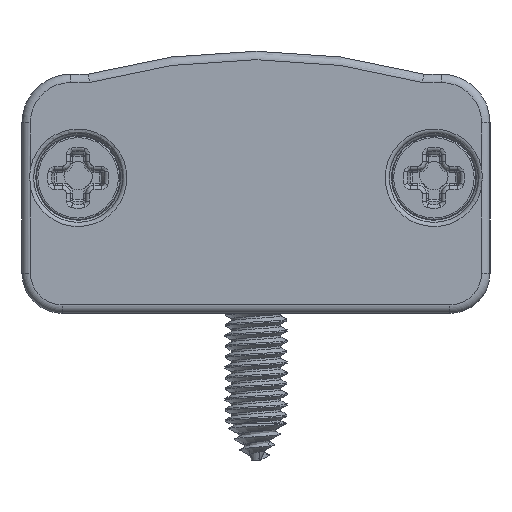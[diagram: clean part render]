
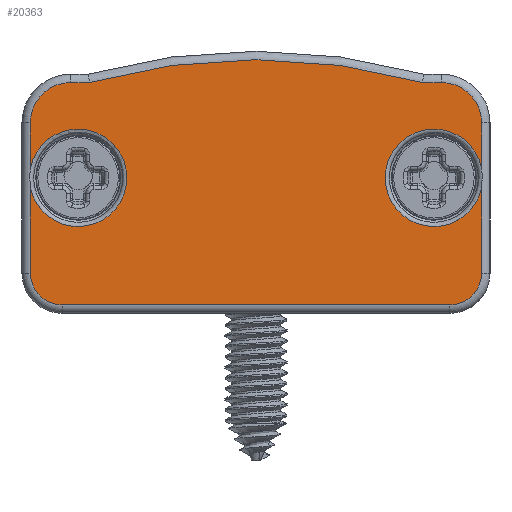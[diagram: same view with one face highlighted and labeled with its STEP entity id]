
A CAD part, front view. The second image highlights one B-rep face of the part: STEP entity #20363.
In plain terms, the highlighted planar face has unit normal (0, -1, 0).
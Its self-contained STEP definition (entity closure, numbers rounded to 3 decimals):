
#614=PLANE('',#22472);
#1699=FACE_OUTER_BOUND('',#3006,.T.);
#3006=EDGE_LOOP('',(#16220,#16221,#16222,#16223,#16224,#16225,#16226,#16227,
#16228,#16229,#16230,#16231,#16232,#16233,#16234,#16235));
#4203=CIRCLE('',#22389,1.9);
#4207=CIRCLE('',#22395,1.5);
#4208=CIRCLE('',#22398,2.3);
#4212=CIRCLE('',#22402,2.3);
#4241=CIRCLE('',#22456,29.257);
#4244=CIRCLE('',#22460,1.9);
#4248=CIRCLE('',#22466,1.5);
#4251=CIRCLE('',#22473,2.3);
#4252=CIRCLE('',#22474,2.3);
#6227=LINE('',#35588,#7558);
#6228=LINE('',#35618,#7559);
#6230=LINE('',#35622,#7561);
#6257=LINE('',#35790,#7588);
#6258=LINE('',#35833,#7589);
#6260=LINE('',#35838,#7591);
#6261=LINE('',#35846,#7592);
#7558=VECTOR('',#26864,10.);
#7559=VECTOR('',#26877,10.);
#7561=VECTOR('',#26881,10.);
#7588=VECTOR('',#27034,10.);
#7589=VECTOR('',#27051,10.);
#7591=VECTOR('',#27055,10.);
#7592=VECTOR('',#27066,10.);
#9005=VERTEX_POINT('',#35574);
#9006=VERTEX_POINT('',#35587);
#9008=VERTEX_POINT('',#35592);
#9009=VERTEX_POINT('',#35597);
#9010=VERTEX_POINT('',#35598);
#9011=VERTEX_POINT('',#35617);
#9014=VERTEX_POINT('',#35625);
#9017=VERTEX_POINT('',#35636);
#9053=VERTEX_POINT('',#35787);
#9054=VERTEX_POINT('',#35789);
#9056=VERTEX_POINT('',#35808);
#9057=VERTEX_POINT('',#35813);
#9058=VERTEX_POINT('',#35814);
#9060=VERTEX_POINT('',#35836);
#9062=VERTEX_POINT('',#35841);
#9065=VERTEX_POINT('',#35857);
#11457=EDGE_CURVE('',#9006,#9005,#6227,.T.);
#11461=EDGE_CURVE('',#9008,#9006,#4203,.T.);
#11463=EDGE_CURVE('',#9011,#9009,#6228,.T.);
#11466=EDGE_CURVE('',#9010,#9008,#6230,.T.);
#11469=EDGE_CURVE('',#9014,#9011,#4207,.T.);
#11473=EDGE_CURVE('',#9017,#9010,#4208,.T.);
#11477=EDGE_CURVE('',#9009,#9017,#4212,.T.);
#11532=EDGE_CURVE('',#9053,#9054,#6257,.T.);
#11534=EDGE_CURVE('',#9054,#9005,#4241,.T.);
#11537=EDGE_CURVE('',#9056,#9053,#4244,.T.);
#11540=EDGE_CURVE('',#9058,#9056,#6258,.T.);
#11543=EDGE_CURVE('',#9060,#9057,#6260,.T.);
#11545=EDGE_CURVE('',#9062,#9060,#4248,.T.);
#11547=EDGE_CURVE('',#9062,#9014,#6261,.T.);
#11553=EDGE_CURVE('',#9065,#9058,#4251,.T.);
#11554=EDGE_CURVE('',#9057,#9065,#4252,.T.);
#16220=ORIENTED_EDGE('',*,*,#11534,.F.);
#16221=ORIENTED_EDGE('',*,*,#11532,.F.);
#16222=ORIENTED_EDGE('',*,*,#11537,.F.);
#16223=ORIENTED_EDGE('',*,*,#11540,.F.);
#16224=ORIENTED_EDGE('',*,*,#11553,.F.);
#16225=ORIENTED_EDGE('',*,*,#11554,.F.);
#16226=ORIENTED_EDGE('',*,*,#11543,.F.);
#16227=ORIENTED_EDGE('',*,*,#11545,.F.);
#16228=ORIENTED_EDGE('',*,*,#11547,.T.);
#16229=ORIENTED_EDGE('',*,*,#11469,.T.);
#16230=ORIENTED_EDGE('',*,*,#11463,.T.);
#16231=ORIENTED_EDGE('',*,*,#11477,.T.);
#16232=ORIENTED_EDGE('',*,*,#11473,.T.);
#16233=ORIENTED_EDGE('',*,*,#11466,.T.);
#16234=ORIENTED_EDGE('',*,*,#11461,.T.);
#16235=ORIENTED_EDGE('',*,*,#11457,.T.);
#20363=ADVANCED_FACE('',(#1699),#614,.T.);
#22389=AXIS2_PLACEMENT_3D('',#35595,#26873,#26874);
#22395=AXIS2_PLACEMENT_3D('',#35628,#26888,#26889);
#22398=AXIS2_PLACEMENT_3D('',#35637,#26897,#26898);
#22402=AXIS2_PLACEMENT_3D('',#35643,#26905,#26906);
#22456=AXIS2_PLACEMENT_3D('',#35804,#27037,#27038);
#22460=AXIS2_PLACEMENT_3D('',#35810,#27045,#27046);
#22466=AXIS2_PLACEMENT_3D('',#35843,#27060,#27061);
#22472=AXIS2_PLACEMENT_3D('',#35856,#27077,#27078);
#22473=AXIS2_PLACEMENT_3D('',#35858,#27079,#27080);
#22474=AXIS2_PLACEMENT_3D('',#35859,#27081,#27082);
#26864=DIRECTION('',(-1.,0.,0.));
#26873=DIRECTION('center_axis',(0.,-1.,0.));
#26874=DIRECTION('ref_axis',(0.707,0.,0.707));
#26877=DIRECTION('',(0.,0.,1.));
#26881=DIRECTION('',(0.,0.,1.));
#26888=DIRECTION('center_axis',(0.,-1.,0.));
#26889=DIRECTION('ref_axis',(0.707,0.,-0.707));
#26897=DIRECTION('center_axis',(0.,1.,0.));
#26898=DIRECTION('ref_axis',(-1.,0.,0.));
#26905=DIRECTION('center_axis',(0.,1.,0.));
#26906=DIRECTION('ref_axis',(-1.,0.,0.));
#27034=DIRECTION('',(1.,0.,0.));
#27037=DIRECTION('center_axis',(0.,1.,0.));
#27038=DIRECTION('ref_axis',(-0.135,0.,0.991));
#27045=DIRECTION('center_axis',(0.,1.,0.));
#27046=DIRECTION('ref_axis',(-0.707,0.,0.707));
#27051=DIRECTION('',(0.,0.,1.));
#27055=DIRECTION('',(0.,0.,1.));
#27060=DIRECTION('center_axis',(0.,1.,0.));
#27061=DIRECTION('ref_axis',(-0.707,0.,-0.707));
#27066=DIRECTION('',(1.,0.,0.));
#27077=DIRECTION('center_axis',(0.,-1.,0.));
#27078=DIRECTION('ref_axis',(1.,0.,0.));
#27079=DIRECTION('center_axis',(0.,-1.,0.));
#27080=DIRECTION('ref_axis',(1.,0.,0.));
#27081=DIRECTION('center_axis',(0.,-1.,0.));
#27082=DIRECTION('ref_axis',(1.,0.,0.));
#35574=CARTESIAN_POINT('',(7.866,-3.4,9.2));
#35587=CARTESIAN_POINT('',(8.75,-3.4,9.2));
#35588=CARTESIAN_POINT('',(7.138,-3.4,9.2));
#35592=CARTESIAN_POINT('',(10.65,-3.4,7.3));
#35595=CARTESIAN_POINT('Origin',(8.75,-3.4,7.3));
#35597=CARTESIAN_POINT('',(10.65,-3.4,4.223));
#35598=CARTESIAN_POINT('',(10.65,-3.4,5.177));
#35617=CARTESIAN_POINT('',(10.65,-3.4,0.2));
#35618=CARTESIAN_POINT('',(10.65,-3.4,2.344));
#35622=CARTESIAN_POINT('',(10.65,-3.4,2.344));
#35625=CARTESIAN_POINT('',(9.15,-3.4,-1.3));
#35628=CARTESIAN_POINT('Origin',(9.15,-3.4,0.2));
#35636=CARTESIAN_POINT('',(8.4,-3.4,2.4));
#35637=CARTESIAN_POINT('Origin',(8.4,-3.4,4.7));
#35643=CARTESIAN_POINT('Origin',(8.4,-3.4,4.7));
#35787=CARTESIAN_POINT('',(-8.75,-3.4,9.2));
#35789=CARTESIAN_POINT('',(-7.866,-3.4,9.2));
#35790=CARTESIAN_POINT('',(-7.138,-3.4,9.2));
#35804=CARTESIAN_POINT('Origin',(0.,-3.4,-18.98));
#35808=CARTESIAN_POINT('',(-10.65,-3.4,7.3));
#35810=CARTESIAN_POINT('Origin',(-8.75,-3.4,7.3));
#35813=CARTESIAN_POINT('',(-10.65,-3.4,4.223));
#35814=CARTESIAN_POINT('',(-10.65,-3.4,5.177));
#35833=CARTESIAN_POINT('',(-10.65,-3.4,2.344));
#35836=CARTESIAN_POINT('',(-10.65,-3.4,0.2));
#35838=CARTESIAN_POINT('',(-10.65,-3.4,2.344));
#35841=CARTESIAN_POINT('',(-9.15,-3.4,-1.3));
#35843=CARTESIAN_POINT('Origin',(-9.15,-3.4,0.2));
#35846=CARTESIAN_POINT('',(2.763,-3.4,-1.3));
#35856=CARTESIAN_POINT('Origin',(-5.525,-3.4,4.489));
#35857=CARTESIAN_POINT('',(-8.4,-3.4,2.4));
#35858=CARTESIAN_POINT('Origin',(-8.4,-3.4,4.7));
#35859=CARTESIAN_POINT('Origin',(-8.4,-3.4,4.7));
